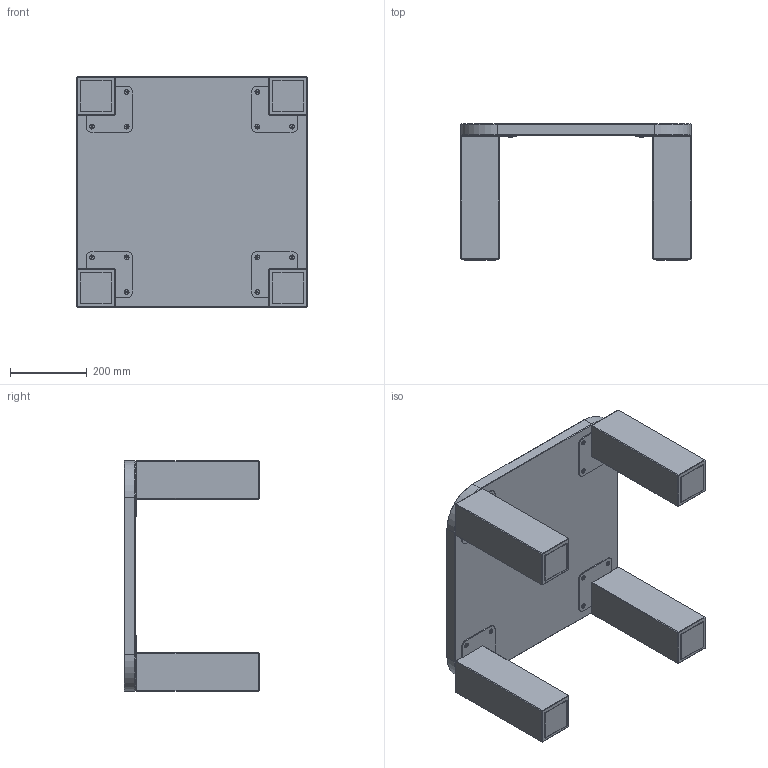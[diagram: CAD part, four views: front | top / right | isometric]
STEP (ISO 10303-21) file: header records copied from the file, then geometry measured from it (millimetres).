
FILE_DESCRIPTION (( 'STEP AP214' ), '1' );
FILE_NAME ('Atlas 600.STEP', '2022-09-05T08:55:01', ( '' ), ( '' ), 'SwSTEP 2.0', 'SolidWorks 2021', '' );
FILE_SCHEMA (( 'AUTOMOTIVE_DESIGN' ));
Length unit declared in the file: millimetre
Products named in the file (7): 426 9003; 426 9005; 600x600 Leg assembly; 426 9006; Atlas 600; socket countersunk head screw_iso_ISO 10642 - M6 x 16 - 16C; 426 9002
Assembly tree (14 placements, depth 3):
  Atlas 600
    600x600 Leg assembly  x4
      426 9005
      426 9002
      426 9003
      socket countersunk head screw_iso_ISO 10642 - M6 x 16 - 16C
    426 9006
Bounding box: 600 x 353.5 x 600 mm (x, y, z)
Volume: 23529234.3 mm3; surface area: 1540268.3 mm2
Topology: 37 solids, 37 shells, 1026 faces, 2256 edges, 1256 vertices
Faces by surface type: plane 538, cone 276, cylinder 164, torus 48
Entity records: 5598 total; most frequent: DIRECTION 1010, CARTESIAN_POINT 884, ORIENTED_EDGE 840, EDGE_CURVE 420, AXIS2_PLACEMENT_3D 372, LINE 266, VECTOR 266, VERTEX_POINT 246
